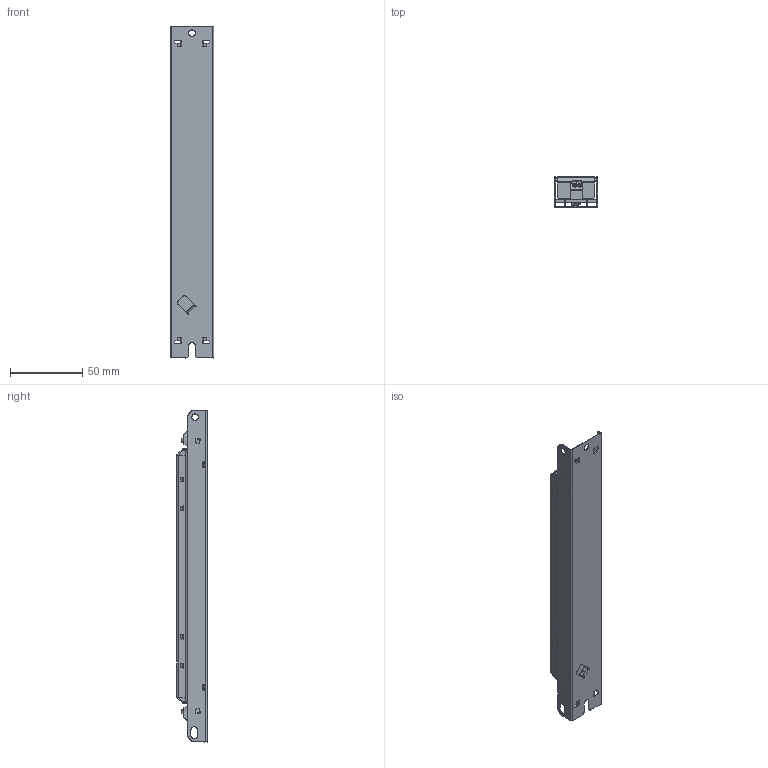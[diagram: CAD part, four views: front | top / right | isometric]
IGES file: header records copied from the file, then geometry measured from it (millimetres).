
Start section: SolidWorks IGES file using analytic representation for surfaces
Global section: file name: C:\Users\vuorinen_kari\Desktop\prj\LL1x38-CC-350\LL1x38-CC-350.IGS; native system: SolidWorks 2014; preprocessor: SolidWorks 2014; author: vuorinen_kari; date: 171205.101644; units: millimetre
Bounding box: 30 x 20.88 x 230 mm (x, y, z)
Surface area: 59184.4 mm2 (no closed solid volume)
Topology: 0 solids, 0 shells, 997 faces, 7349 edges, 7337 vertices
Faces by surface type: bspline 642, revolution 355
